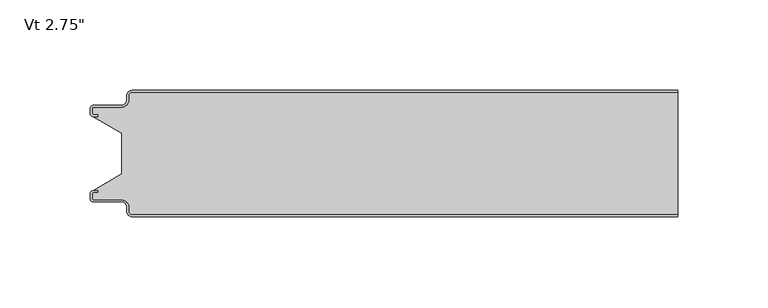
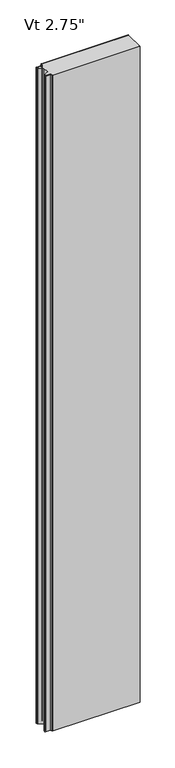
"""IFC4 building model written with IfcOpenShell, lengths in millimetres: plate geometry."""

from ifc_helpers import new_model, si_unit, frame, origin, place, context, project, spatial, polyline, circle_curve, source, transform, mapped, element, save
from ifc_brep_helpers import plane_surface, cylinder_surface, revolved_surface, advanced_brep


def plate_2b2a99c2(model_context):
    return source(origin(), model_context, "Body", "AdvancedBrep", [
        advanced_brep(
        [(-149.8873936, -2.9776189, 2400.0), (-147.9104835, -1.0007088, 2400.0), (153.7374998, -1.0007088, 2400.0), (153.7374998, 0.0, 2400.0), (-147.9102787, 0.0, 2400.0), (-150.8875472, -2.977286, 2400.0), (-150.8875472, -5.2691698, 2400.0), (-153.8648158, -8.2464384, 2400.0), (-169.4612418, -8.2464384, 2400.0), (-171.0491183, -9.8343149, 2400.0), (-171.0491183, -12.9058636, 2400.0), (-169.4612418, -14.4937401, 2400.0), (-167.1062063, -14.4937401, 2400.0), (-167.1062063, -13.4937365, 2400.0), (-169.4612373, -13.4937365, 2400.0), (-170.0491084, -12.9058654, 2400.0), (-170.0491084, -9.834334, 2400.0), (-169.4612512, -9.2464768, 2400.0), (-153.864739, -9.2464768, 2400.0), (-149.8873936, -5.2691315, 2400.0), (-149.8873936, -2.9776189, 0.0), (-149.8873936, -5.2691315, 0.0), (-153.864739, -9.2464768, 0.0), (-169.4612512, -9.2464768, 0.0), (-170.0491084, -9.834334, 0.0), (-170.0491084, -12.9058654, 0.0), (-169.4612373, -13.4937365, 0.0), (-167.1062063, -13.4937365, 0.0), (-167.1062063, -14.4937401, 0.0), (-169.4612418, -14.4937401, 0.0), (-171.0491183, -12.9058636, 0.0), (-171.0491183, -9.8343149, 0.0), (-169.4612418, -8.2464384, 0.0), (-153.8648158, -8.2464384, 0.0), (-150.8875472, -5.2691698, 0.0), (-150.8875472, -2.977286, 0.0), (-147.9102787, -1.75e-05, 0.0), (153.7374998, 0.0, 0.0), (153.7374998, -1.0007088, 0.0), (-147.9104835, -1.0007088, 0.0)],
        [
            (0, 1, circle_curve(frame((-147.9104835, -2.9776189, 2400.0), z_axis=(0.0, 0.0, -1.0), x_axis=(0.0, 1.0, 0.0)), 1.9769101)),
            (1, 2),
            (2, 3),
            (3, 4),
            (4, 5, circle_curve(frame((-147.9102787, -2.977286, 2400.0), z_axis=(0.0, 0.0, 1.0), x_axis=(0.0, 1.0, 0.0)), 2.9772685)),
            (5, 6),
            (6, 7, circle_curve(frame((-153.8648158, -5.2691698, 2400.0), z_axis=(0.0, 0.0, -1.0), x_axis=(0.0, 1.0, 0.0)), 2.9772685)),
            (7, 8),
            (8, 9, circle_curve(frame((-169.4612418, -9.8343149, 2400.0), z_axis=(0.0, 0.0, 1.0), x_axis=(0.0, 1.0, 0.0)), 1.5878765)),
            (9, 10),
            (10, 11, circle_curve(frame((-169.4612418, -12.9058636, 2400.0), z_axis=(0.0, 0.0, 1.0), x_axis=(0.0, 1.0, 0.0)), 1.5878765)),
            (11, 12),
            (12, 13),
            (13, 14),
            (14, 15, circle_curve(frame((-169.4612373, -12.9058654, 2400.0), z_axis=(0.0, 0.0, -1.0), x_axis=(0.0, 1.0, 0.0)), 0.5878711)),
            (15, 16),
            (16, 17, circle_curve(frame((-169.4612512, -9.834334, 2400.0), z_axis=(0.0, 0.0, -1.0), x_axis=(0.0, 1.0, 0.0)), 0.5878572)),
            (17, 18),
            (18, 19, circle_curve(frame((-153.864739, -5.2691315, 2400.0), z_axis=(0.0, 0.0, 1.0), x_axis=(0.0, 1.0, 0.0)), 3.9773454)),
            (19, 0),
            (20, 21),
            (21, 22, circle_curve(frame((-153.864739, -5.2691315, 0.0), z_axis=(0.0, 0.0, -1.0), x_axis=(0.0, 1.0, 0.0)), 3.9773454)),
            (22, 23),
            (23, 24, circle_curve(frame((-169.4612512, -9.834334, 0.0), z_axis=(0.0, 0.0, 1.0), x_axis=(0.0, 1.0, 0.0)), 0.5878572)),
            (24, 25),
            (25, 26, circle_curve(frame((-169.4612373, -12.9058654, 0.0), z_axis=(0.0, 0.0, 1.0), x_axis=(0.0, 1.0, 0.0)), 0.5878711)),
            (26, 27),
            (27, 28),
            (28, 29),
            (29, 30, circle_curve(frame((-169.4612418, -12.9058636, 0.0), z_axis=(0.0, 0.0, -1.0), x_axis=(0.0, 1.0, 0.0)), 1.5878765)),
            (30, 31),
            (31, 32, circle_curve(frame((-169.4612418, -9.8343149, 0.0), z_axis=(0.0, 0.0, -1.0), x_axis=(0.0, 1.0, 0.0)), 1.5878765)),
            (32, 33),
            (33, 34, circle_curve(frame((-153.8648158, -5.2691698, 0.0), z_axis=(0.0, 0.0, 1.0), x_axis=(0.0, 1.0, 0.0)), 2.9772685)),
            (34, 35),
            (35, 36, circle_curve(frame((-147.9102787, -2.977286, 0.0), z_axis=(0.0, 0.0, -1.0), x_axis=(0.0, 1.0, 0.0)), 2.9772685)),
            (36, 37),
            (37, 38),
            (38, 39),
            (39, 20, circle_curve(frame((-147.9104835, -2.9776189, 0.0), z_axis=(0.0, 0.0, 1.0), x_axis=(0.0, 1.0, 0.0)), 1.9769101)),
            (2, 38),
            (37, 3),
            (19, 21),
            (20, 0),
            (18, 22),
            (17, 23),
            (16, 24),
            (15, 25),
            (14, 26),
            (13, 27),
            (12, 28),
            (11, 29),
            (10, 30),
            (9, 31),
            (8, 32),
            (7, 33),
            (6, 34),
            (5, 35),
            (4, 36),
            (1, 39),
        ],
        [
            plane_surface(frame((422.5250002, 0.0, 2400.0), z_axis=(0.0, 0.0, 1.0), x_axis=(0.0, 1.0, 0.0))),
            plane_surface(frame((422.5250002, 0.0, 0.0), z_axis=(0.0, 0.0, -1.0), x_axis=(0.0, 1.0, 0.0))),
            plane_surface(frame((153.7374998, -79.9, 2400.0), z_axis=(1.0, 0.0, 0.0), x_axis=(0.0, 0.0, -1.0))),
            plane_surface(frame((-149.8873936, -2.9776189, 2400.0), z_axis=(1.0, 0.0, 0.0), x_axis=(0.0, 0.0, -1.0))),
            cylinder_surface(frame((-153.864739, -5.2691315, 2400.0), z_axis=(0.0, 0.0, 1.0), x_axis=(0.0, 1.0, 0.0)), 3.9773454),
            plane_surface(frame((-153.864739, -9.2464768, 2400.0), z_axis=(0.0, -1.0, 0.0), x_axis=(0.0, 0.0, -1.0))),
            revolved_surface(polyline([(-169.4612512, -9.2464768, 0.0), (-169.4612512, -9.2464768, 2400.0)]), (-169.4612512, -9.834334, 2400.0), (0.0, 0.0, -1.0)),
            plane_surface(frame((-170.0491084, -9.834334, 2400.0), z_axis=(1.0, 0.0, 0.0), x_axis=(0.0, 0.0, -1.0))),
            revolved_surface(polyline([(-169.4612373, -12.3179943, 0.0), (-169.4612373, -12.3179943, 2400.0)]), (-169.4612373, -12.9058654, 2400.0), (0.0, 0.0, -1.0)),
            plane_surface(frame((-169.4612373, -13.4937365, 2400.0), z_axis=(0.0, 1.0, 0.0), x_axis=(0.0, 0.0, -1.0))),
            plane_surface(frame((-167.1062063, -13.4937365, 2400.0), z_axis=(1.0, 0.0, 0.0), x_axis=(0.0, 0.0, -1.0))),
            plane_surface(frame((-167.1062063, -14.4937401, 2400.0), z_axis=(0.0, -1.0, 0.0), x_axis=(0.0, 0.0, -1.0))),
            cylinder_surface(frame((-169.4612418, -12.9058636, 2400.0), z_axis=(0.0, 0.0, 1.0), x_axis=(0.0, 1.0, 0.0)), 1.5878765),
            plane_surface(frame((-171.0491183, -12.9058636, 2400.0), z_axis=(-1.0, 0.0, 0.0), x_axis=(0.0, 0.0, -1.0))),
            cylinder_surface(frame((-169.4612418, -9.8343149, 2400.0), z_axis=(0.0, 0.0, 1.0), x_axis=(0.0, 1.0, 0.0)), 1.5878765),
            plane_surface(frame((-169.4612418, -8.2464384, 2400.0), z_axis=(0.0, 1.0, 0.0), x_axis=(0.0, 0.0, -1.0))),
            revolved_surface(polyline([(-153.8648158, -2.2919013, 0.0), (-153.8648158, -2.2919013, 2400.0)]), (-153.8648158, -5.2691698, 2400.0), (0.0, 0.0, -1.0)),
            plane_surface(frame((-150.8875472, -5.2691698, 2400.0), z_axis=(-1.0, 0.0, 0.0), x_axis=(0.0, 0.0, -1.0))),
            cylinder_surface(frame((-147.9102787, -2.977286, 2400.0), z_axis=(0.0, 0.0, 1.0), x_axis=(0.0, 1.0, 0.0)), 2.9772685),
            plane_surface(frame((-147.9102787, 0.0, 2400.0), z_axis=(0.0, 1.0, 0.0), x_axis=(0.0, 0.0, -1.0))),
            plane_surface(frame((997.0753372, -1.0007088, 2400.0), z_axis=(0.0, -1.0, 0.0), x_axis=(0.0, 0.0, -1.0))),
            revolved_surface(polyline([(-147.9104835, -1.0007088, 0.0), (-147.9104835, -1.0007088, 2400.0)]), (-147.9104835, -2.9776189, 2400.0), (0.0, 0.0, -1.0)),
        ],
        [
            (0, [[1, 2, 3, 4, 5, 6, 7, 8, 9, 10, 11, 12, 13, 14, 15, 16, 17, 18, 19, 20]]),
            (1, [[21, 22, 23, 24, 25, 26, 27, 28, 29, 30, 31, 32, 33, 34, 35, 36, 37, 38, 39, 40]]),
            (2, [[41, -38, 42, -3]]),
            (3, [[43, -21, 44, -20]]),
            (4, [[45, -22, -43, -19]]),
            (5, [[46, -23, -45, -18]]),
            (6, [[47, -24, -46, -17]]),
            (7, [[48, -25, -47, -16]]),
            (8, [[49, -26, -48, -15]]),
            (9, [[50, -27, -49, -14]]),
            (10, [[51, -28, -50, -13]]),
            (11, [[52, -29, -51, -12]]),
            (12, [[53, -30, -52, -11]]),
            (13, [[54, -31, -53, -10]]),
            (14, [[55, -32, -54, -9]]),
            (15, [[56, -33, -55, -8]]),
            (16, [[57, -34, -56, -7]]),
            (17, [[58, -35, -57, -6]]),
            (18, [[59, -36, -58, -5]]),
            (19, [[-4, -42, -37, -59]]),
            (20, [[-39, -41, -2, 60]]),
            (21, [[-44, -40, -60, -1]]),
        ],
    ),
        advanced_brep(
        [(-149.8873936, -66.9223811, 2400.0), (-149.8873936, -64.6308685, 2400.0), (-153.864739, -60.6535232, 2400.0), (-169.4612512, -60.6535232, 2400.0), (-170.0491084, -60.065666, 2400.0), (-170.0491084, -56.9941346, 2400.0), (-169.4612373, -56.4062635, 2400.0), (-167.1062063, -56.4062635, 2400.0), (-167.1062063, -55.4062599, 2400.0), (-169.4612418, -55.4062599, 2400.0), (-171.0491183, -56.9941364, 2400.0), (-171.0491183, -60.0656851, 2400.0), (-169.4612418, -61.6535616, 2400.0), (-153.8648158, -61.6535616, 2400.0), (-150.8875472, -64.6308302, 2400.0), (-150.8875472, -66.922714, 2400.0), (-147.9102787, -69.8999825, 2400.0), (153.7374998, -69.9, 2400.0), (153.7374998, -68.8992912, 2400.0), (-147.9104835, -68.8992912, 2400.0), (-149.8873936, -66.9223811, 0.0), (-147.9104835, -68.8992912, 0.0), (153.7374998, -68.8992912, 0.0), (153.7374998, -69.9, 0.0), (-147.9102787, -69.9, 0.0), (-150.8875472, -66.922714, 0.0), (-150.8875472, -64.6308302, 0.0), (-153.8648158, -61.6535616, 0.0), (-169.4612418, -61.6535616, 0.0), (-171.0491183, -60.0656851, 0.0), (-171.0491183, -56.9941364, 0.0), (-169.4612418, -55.4062599, 0.0), (-167.1062063, -55.4062599, 0.0), (-167.1062063, -56.4062635, 0.0), (-169.4612373, -56.4062635, 0.0), (-170.0491084, -56.9941346, 0.0), (-170.0491084, -60.065666, 0.0), (-169.4612512, -60.6535232, 0.0), (-153.864739, -60.6535232, 0.0), (-149.8873936, -64.6308685, 0.0)],
        [
            (0, 1),
            (1, 2, circle_curve(frame((-153.864739, -64.6308685, 2400.0), z_axis=(0.0, 0.0, 1.0), x_axis=(-1.0, 0.0, 0.0)), 3.9773454)),
            (2, 3),
            (3, 4, circle_curve(frame((-169.4612512, -60.065666, 2400.0), z_axis=(0.0, 0.0, -1.0), x_axis=(-1.0, 0.0, 0.0)), 0.5878572)),
            (4, 5),
            (5, 6, circle_curve(frame((-169.4612373, -56.9941346, 2400.0), z_axis=(0.0, 0.0, -1.0), x_axis=(-1.0, 0.0, 0.0)), 0.5878711)),
            (6, 7),
            (7, 8),
            (8, 9),
            (9, 10, circle_curve(frame((-169.4612418, -56.9941364, 2400.0), z_axis=(0.0, 0.0, 1.0), x_axis=(-1.0, 0.0, 0.0)), 1.5878765)),
            (10, 11),
            (11, 12, circle_curve(frame((-169.4612418, -60.0656851, 2400.0), z_axis=(0.0, 0.0, 1.0), x_axis=(-1.0, 0.0, 0.0)), 1.5878765)),
            (12, 13),
            (13, 14, circle_curve(frame((-153.8648158, -64.6308302, 2400.0), z_axis=(0.0, 0.0, -1.0), x_axis=(-1.0, 0.0, 0.0)), 2.9772685)),
            (14, 15),
            (15, 16, circle_curve(frame((-147.9102787, -66.922714, 2400.0), z_axis=(0.0, 0.0, 1.0), x_axis=(-1.0, 0.0, 0.0)), 2.9772685)),
            (16, 17),
            (17, 18),
            (18, 19),
            (19, 0, circle_curve(frame((-147.9104835, -66.9223811, 2400.0), z_axis=(0.0, 0.0, -1.0), x_axis=(-1.0, 0.0, 0.0)), 1.9769101)),
            (20, 21, circle_curve(frame((-147.9104835, -66.9223811, 0.0), z_axis=(0.0, 0.0, 1.0), x_axis=(-1.0, 0.0, 0.0)), 1.9769101)),
            (21, 22),
            (22, 23),
            (23, 24),
            (24, 25, circle_curve(frame((-147.9102787, -66.922714, 0.0), z_axis=(0.0, 0.0, -1.0), x_axis=(-1.0, 0.0, 0.0)), 2.9772685)),
            (25, 26),
            (26, 27, circle_curve(frame((-153.8648158, -64.6308302, 0.0), z_axis=(0.0, 0.0, 1.0), x_axis=(-1.0, 0.0, 0.0)), 2.9772685)),
            (27, 28),
            (28, 29, circle_curve(frame((-169.4612418, -60.0656851, 0.0), z_axis=(0.0, 0.0, -1.0), x_axis=(-1.0, 0.0, 0.0)), 1.5878765)),
            (29, 30),
            (30, 31, circle_curve(frame((-169.4612418, -56.9941364, 0.0), z_axis=(0.0, 0.0, -1.0), x_axis=(-1.0, 0.0, 0.0)), 1.5878765)),
            (31, 32),
            (32, 33),
            (33, 34),
            (34, 35, circle_curve(frame((-169.4612373, -56.9941346, 0.0), z_axis=(0.0, 0.0, 1.0), x_axis=(-1.0, 0.0, 0.0)), 0.5878711)),
            (35, 36),
            (36, 37, circle_curve(frame((-169.4612512, -60.065666, 0.0), z_axis=(0.0, 0.0, 1.0), x_axis=(-1.0, 0.0, 0.0)), 0.5878572)),
            (37, 38),
            (38, 39, circle_curve(frame((-153.864739, -64.6308685, 0.0), z_axis=(0.0, 0.0, -1.0), x_axis=(-1.0, 0.0, 0.0)), 3.9773454)),
            (39, 20),
            (17, 23),
            (22, 18),
            (16, 24),
            (21, 19),
            (20, 0),
            (39, 1),
            (38, 2),
            (37, 3),
            (4, 36),
            (35, 5),
            (34, 6),
            (33, 7),
            (32, 8),
            (31, 9),
            (30, 10),
            (29, 11),
            (28, 12),
            (27, 13),
            (26, 14),
            (25, 15),
        ],
        [
            plane_surface(frame((422.5250002, -69.9, 2400.0), z_axis=(0.0, 0.0, 1.0), x_axis=(0.0, -1.0, 0.0))),
            plane_surface(frame((422.5250002, -69.9, 0.0), z_axis=(0.0, 0.0, -1.0), x_axis=(0.0, -1.0, 0.0))),
            plane_surface(frame((153.7374998, -79.9, 2400.0), z_axis=(1.0, 0.0, 0.0), x_axis=(0.0, 0.0, -1.0))),
            plane_surface(frame((997.0725653, -69.9, 2400.0), z_axis=(0.0, -1.0, 0.0), x_axis=(0.0, 0.0, -1.0))),
            plane_surface(frame((-147.9104835, -68.8992912, 2400.0), z_axis=(0.0, 1.0, 0.0), x_axis=(0.0, 0.0, -1.0))),
            revolved_surface(polyline([(-149.8873936, -66.9223811, 0.0), (-149.8873936, -66.9223811, 2400.0)]), (-147.9104835, -66.9223811, 2400.0), (0.0, 0.0, -1.0)),
            plane_surface(frame((-149.8873936, -64.6308685, 2400.0), z_axis=(1.0, 0.0, 0.0), x_axis=(0.0, 0.0, -1.0))),
            cylinder_surface(frame((-153.864739, -64.6308685, 2400.0), z_axis=(0.0, 0.0, 1.0), x_axis=(-1.0, 0.0, 0.0)), 3.9773454),
            plane_surface(frame((-169.4612512, -60.6535232, 2400.0), z_axis=(0.0, 1.0, 0.0), x_axis=(0.0, 0.0, -1.0))),
            plane_surface(frame((-170.0491084, -56.9941346, 2400.0), z_axis=(1.0, 0.0, 0.0), x_axis=(0.0, 0.0, -1.0))),
            revolved_surface(polyline([(-170.0491084, -56.9941346, 0.0), (-170.0491084, -56.9941346, 2400.0)]), (-169.4612373, -56.9941346, 2400.0), (0.0, 0.0, -1.0)),
            plane_surface(frame((-167.1062063, -56.4062635, 2400.0), z_axis=(0.0, -1.0, 0.0), x_axis=(0.0, 0.0, -1.0))),
            plane_surface(frame((-167.1062063, -55.4062599, 2400.0), z_axis=(1.0, 0.0, 0.0), x_axis=(0.0, 0.0, -1.0))),
            plane_surface(frame((-169.4612418, -55.4062599, 2400.0), z_axis=(0.0, 1.0, 0.0), x_axis=(0.0, 0.0, -1.0))),
            cylinder_surface(frame((-169.4612418, -56.9941364, 2400.0), z_axis=(0.0, 0.0, 1.0), x_axis=(-1.0, 0.0, 0.0)), 1.5878765),
            plane_surface(frame((-171.0491183, -60.0656851, 2400.0), z_axis=(-1.0, 0.0, 0.0), x_axis=(0.0, 0.0, -1.0))),
            cylinder_surface(frame((-169.4612418, -60.0656851, 2400.0), z_axis=(0.0, 0.0, 1.0), x_axis=(-1.0, 0.0, 0.0)), 1.5878765),
            plane_surface(frame((-153.8648158, -61.6535616, 2400.0), z_axis=(0.0, -1.0, 0.0), x_axis=(0.0, 0.0, -1.0))),
            revolved_surface(polyline([(-156.8420843, -64.6308302, 0.0), (-156.8420843, -64.6308302, 2400.0)]), (-153.8648158, -64.6308302, 2400.0), (0.0, 0.0, -1.0)),
            plane_surface(frame((-150.8875472, -66.922714, 2400.0), z_axis=(-1.0, 0.0, 0.0), x_axis=(0.0, 0.0, -1.0))),
            cylinder_surface(frame((-147.9102787, -66.922714, 2400.0), z_axis=(0.0, 0.0, 1.0), x_axis=(-1.0, 0.0, 0.0)), 2.9772685),
            revolved_surface(polyline([(-170.0491084, -60.065666, 0.0), (-170.0491084, -60.065666, 2400.0)]), (-169.4612512, -60.065666, 2400.0), (0.0, 0.0, -1.0)),
        ],
        [
            (0, [[1, 2, 3, 4, 5, 6, 7, 8, 9, 10, 11, 12, 13, 14, 15, 16, 17, 18, 19, 20]]),
            (1, [[21, 22, 23, 24, 25, 26, 27, 28, 29, 30, 31, 32, 33, 34, 35, 36, 37, 38, 39, 40]]),
            (2, [[41, -23, 42, -18]]),
            (3, [[-24, -41, -17, 43]]),
            (4, [[-19, -42, -22, 44]]),
            (5, [[-44, -21, 45, -20]]),
            (6, [[-45, -40, 46, -1]]),
            (7, [[-46, -39, 47, -2]]),
            (8, [[-47, -38, 48, -3]]),
            (9, [[49, -36, 50, -5]]),
            (10, [[-50, -35, 51, -6]]),
            (11, [[-51, -34, 52, -7]]),
            (12, [[-52, -33, 53, -8]]),
            (13, [[-53, -32, 54, -9]]),
            (14, [[-54, -31, 55, -10]]),
            (15, [[-55, -30, 56, -11]]),
            (16, [[-56, -29, 57, -12]]),
            (17, [[-57, -28, 58, -13]]),
            (18, [[-58, -27, 59, -14]]),
            (19, [[-59, -26, 60, -15]]),
            (20, [[-60, -25, -43, -16]]),
            (21, [[-48, -37, -49, -4]]),
        ],
    ),
        advanced_brep(
        [(-149.88755, -66.9227194, 2400.0), (-147.910276, -68.8999935, 2400.0), (153.7374998, -68.9, 2400.0), (153.7374998, -1.0, 2400.0), (-147.910276, -1.0, 2400.0), (-149.88755, -2.9772806, 2400.0), (-149.88755, -5.2691705, 2400.0), (-153.8648171, -9.2464377, 2400.0), (-169.4612416, -9.2464377, 2400.0), (-170.0491185, -9.8343146, 2400.0), (-170.0491185, -12.9058635, 2400.0), (-169.4612418, -13.4937402, 2400.0), (-167.1062063, -13.4937402, 2400.0), (-167.1062063, -14.4937402, 2400.0), (-169.395785, -14.4937402, 2400.0), (-153.7374998, -23.7509135, 2400.0), (-153.7374998, -46.1490865, 2400.0), (-169.395785, -55.4062598, 2400.0), (-167.1062063, -55.4062598, 2400.0), (-167.1062063, -56.4062598, 2400.0), (-169.4612418, -56.4062598, 2400.0), (-170.0491185, -56.9941365, 2400.0), (-170.0491185, -60.0656854, 2400.0), (-169.4612416, -60.6535623, 2400.0), (-153.8648171, -60.6535623, 2400.0), (-149.88755, -64.6308295, 2400.0), (-149.88755, -66.9227194, 0.0), (-149.88755, -64.6308295, 0.0), (-153.8648171, -60.6535623, 0.0), (-169.4612416, -60.6535623, 0.0), (-170.0491185, -60.0656854, 0.0), (-170.0491185, -56.9941365, 0.0), (-169.4612418, -56.4062598, 0.0), (-167.1062063, -56.4062598, 0.0), (-167.1062063, -55.4062598, 0.0), (-169.395785, -55.4062598, 0.0), (-153.7374998, -46.1490865, 0.0), (-153.7374998, -23.7509179, 0.0), (-169.395785, -14.4937402, 0.0), (-167.1062063, -14.4937402, 0.0), (-167.1062063, -13.4937402, 0.0), (-169.4612418, -13.4937402, 0.0), (-170.0491185, -12.9058635, 0.0), (-170.0491185, -9.8343146, 0.0), (-169.4612416, -9.2464377, 0.0), (-153.8648171, -9.2464377, 0.0), (-149.88755, -5.2691705, 0.0), (-149.88755, -2.9772806, 0.0), (-147.910276, -1.0000065, 0.0), (153.7374998, -1.0, 0.0), (153.7374998, -68.9, 0.0), (-147.910276, -68.9, 0.0)],
        [
            (0, 1, circle_curve(frame((-147.910276, -66.9227194, 2400.0), z_axis=(0.0, 0.0, 1.0), x_axis=(-1.0, 0.0, 0.0)), 1.977274)),
            (1, 2),
            (2, 3),
            (3, 4),
            (4, 5, circle_curve(frame((-147.910276, -2.9772806, 2400.0), z_axis=(0.0, 0.0, 1.0), x_axis=(0.0, 1.0, 0.0)), 1.977274)),
            (5, 6),
            (6, 7, circle_curve(frame((-153.8648171, -5.2691705, 2400.0), z_axis=(0.0, 0.0, -1.0), x_axis=(0.0, 1.0, 0.0)), 3.9772671)),
            (7, 8),
            (8, 9, circle_curve(frame((-169.4612416, -9.8343146, 2400.0), z_axis=(0.0, 0.0, 1.0), x_axis=(0.0, 1.0, 0.0)), 0.5878769)),
            (9, 10),
            (10, 11, circle_curve(frame((-169.4612418, -12.9058635, 2400.0), z_axis=(0.0, 0.0, 1.0), x_axis=(0.0, 1.0, 0.0)), 0.5878766)),
            (11, 12),
            (12, 13),
            (13, 14),
            (14, 15),
            (15, 16),
            (16, 17),
            (17, 18),
            (18, 19),
            (19, 20),
            (20, 21, circle_curve(frame((-169.4612418, -56.9941365, 2400.0), z_axis=(0.0, 0.0, 1.0), x_axis=(-1.0, 0.0, 0.0)), 0.5878766)),
            (21, 22),
            (22, 23, circle_curve(frame((-169.4612416, -60.0656854, 2400.0), z_axis=(0.0, 0.0, 1.0), x_axis=(-1.0, 0.0, 0.0)), 0.5878769)),
            (23, 24),
            (24, 25, circle_curve(frame((-153.8648171, -64.6308295, 2400.0), z_axis=(0.0, 0.0, -1.0), x_axis=(-1.0, 0.0, 0.0)), 3.9772671)),
            (25, 0),
            (26, 27),
            (27, 28, circle_curve(frame((-153.8648171, -64.6308295, 0.0), z_axis=(0.0, 0.0, 1.0), x_axis=(-1.0, 0.0, 0.0)), 3.9772671)),
            (28, 29),
            (29, 30, circle_curve(frame((-169.4612416, -60.0656854, 0.0), z_axis=(0.0, 0.0, -1.0), x_axis=(-1.0, 0.0, 0.0)), 0.5878769)),
            (30, 31),
            (31, 32, circle_curve(frame((-169.4612418, -56.9941365, 0.0), z_axis=(0.0, 0.0, -1.0), x_axis=(-1.0, 0.0, 0.0)), 0.5878766)),
            (32, 33),
            (33, 34),
            (34, 35),
            (35, 36),
            (36, 37),
            (37, 38),
            (38, 39),
            (39, 40),
            (40, 41),
            (41, 42, circle_curve(frame((-169.4612418, -12.9058635, 0.0), z_axis=(0.0, 0.0, -1.0), x_axis=(0.0, 1.0, 0.0)), 0.5878766)),
            (42, 43),
            (43, 44, circle_curve(frame((-169.4612416, -9.8343146, 0.0), z_axis=(0.0, 0.0, -1.0), x_axis=(0.0, 1.0, 0.0)), 0.5878769)),
            (44, 45),
            (45, 46, circle_curve(frame((-153.8648171, -5.2691705, 0.0), z_axis=(0.0, 0.0, 1.0), x_axis=(0.0, 1.0, 0.0)), 3.9772671)),
            (46, 47),
            (47, 48, circle_curve(frame((-147.910276, -2.9772806, 0.0), z_axis=(0.0, 0.0, -1.0), x_axis=(0.0, 1.0, 0.0)), 1.977274)),
            (48, 49),
            (49, 50),
            (50, 51),
            (51, 26, circle_curve(frame((-147.910276, -66.9227194, 0.0), z_axis=(0.0, 0.0, -1.0), x_axis=(-1.0, 0.0, 0.0)), 1.977274)),
            (15, 37),
            (36, 16),
            (2, 50),
            (49, 3),
            (25, 27),
            (26, 0),
            (24, 28),
            (23, 29),
            (22, 30),
            (21, 31),
            (20, 32),
            (19, 33),
            (18, 34),
            (17, 35),
            (1, 51),
            (4, 48),
            (47, 5),
            (14, 38),
            (13, 39),
            (12, 40),
            (11, 41),
            (10, 42),
            (9, 43),
            (8, 44),
            (7, 45),
            (6, 46),
        ],
        [
            plane_surface(frame((422.5250002, -68.9, 2400.0), z_axis=(0.0, 0.0, 1.0), x_axis=(0.0, -1.0, 0.0))),
            plane_surface(frame((422.5250002, -68.9, 0.0), z_axis=(0.0, 0.0, -1.0), x_axis=(0.0, -1.0, 0.0))),
            plane_surface(frame((-153.7374998, -46.1490865, 2400.0), z_axis=(-1.0, 0.0, 0.0), x_axis=(0.0, 0.0, -1.0))),
            plane_surface(frame((153.7374998, -79.9, 2400.0), z_axis=(1.0, 0.0, 0.0), x_axis=(0.0, 0.0, -1.0))),
            plane_surface(frame((-149.88755, -66.9227194, 2400.0), z_axis=(-1.0, 0.0, 0.0), x_axis=(0.0, 0.0, -1.0))),
            revolved_surface(polyline([(-157.84208420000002, -64.6308295, 0.0), (-157.84208420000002, -64.6308295, 2400.0)]), (-153.8648171, -64.6308295, 2400.0), (0.0, 0.0, -1.0)),
            plane_surface(frame((-153.8648171, -60.6535623, 2400.0), z_axis=(0.0, -1.0, 0.0), x_axis=(0.0, 0.0, -1.0))),
            cylinder_surface(frame((-169.4612416, -60.0656854, 2400.0), z_axis=(0.0, 0.0, 1.0), x_axis=(-1.0, 0.0, 0.0)), 0.5878769),
            plane_surface(frame((-170.0491185, -60.0656854, 2400.0), z_axis=(-1.0, 0.0, 0.0), x_axis=(0.0, 0.0, -1.0))),
            cylinder_surface(frame((-169.4612418, -56.9941365, 2400.0), z_axis=(0.0, 0.0, 1.0), x_axis=(-1.0, 0.0, 0.0)), 0.5878766),
            plane_surface(frame((-169.4612418, -56.4062598, 2400.0), z_axis=(0.0, 1.0, 0.0), x_axis=(0.0, 0.0, -1.0))),
            plane_surface(frame((-167.1062063, -56.4062598, 2400.0), z_axis=(-1.0, 0.0, 0.0), x_axis=(0.0, 0.0, -1.0))),
            plane_surface(frame((-167.1062063, -55.4062598, 2400.0), z_axis=(0.0, -1.0, 0.0), x_axis=(0.0, 0.0, -1.0))),
            plane_surface(frame((-169.395785, -55.4062598, 2400.0), z_axis=(-0.5089147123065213, 0.860816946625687, 0.0), x_axis=(0.0, 0.0, -1.0))),
            plane_surface(frame((997.0725653, -68.9, 2400.0), z_axis=(0.0, -1.0, 0.0), x_axis=(0.0, 0.0, -1.0))),
            cylinder_surface(frame((-147.910276, -66.9227194, 2400.0), z_axis=(0.0, 0.0, 1.0), x_axis=(-1.0, 0.0, 0.0)), 1.977274),
            cylinder_surface(frame((-147.910276, -2.9772806, 2400.0), z_axis=(0.0, 0.0, 1.0), x_axis=(0.0, 1.0, 0.0)), 1.977274),
            plane_surface(frame((-147.910276, -1.0, 2400.0), z_axis=(0.0, 1.0, 0.0), x_axis=(0.0, 0.0, -1.0))),
            plane_surface(frame((-153.7374998, -23.7509135, 2400.0), z_axis=(-0.5089147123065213, -0.860816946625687, 0.0), x_axis=(0.0, 0.0, -1.0))),
            plane_surface(frame((-169.395785, -14.4937402, 2400.0), z_axis=(0.0, 1.0, 0.0), x_axis=(0.0, 0.0, -1.0))),
            plane_surface(frame((-167.1062063, -14.4937402, 2400.0), z_axis=(-1.0, 0.0, 0.0), x_axis=(0.0, 0.0, -1.0))),
            plane_surface(frame((-167.1062063, -13.4937402, 2400.0), z_axis=(0.0, -1.0, 0.0), x_axis=(0.0, 0.0, -1.0))),
            cylinder_surface(frame((-169.4612418, -12.9058635, 2400.0), z_axis=(0.0, 0.0, 1.0), x_axis=(0.0, 1.0, 0.0)), 0.5878766),
            plane_surface(frame((-170.0491185, -12.9058635, 2400.0), z_axis=(-1.0, 0.0, 0.0), x_axis=(0.0, 0.0, -1.0))),
            cylinder_surface(frame((-169.4612416, -9.8343146, 2400.0), z_axis=(0.0, 0.0, 1.0), x_axis=(0.0, 1.0, 0.0)), 0.5878769),
            plane_surface(frame((-169.4612416, -9.2464377, 2400.0), z_axis=(0.0, 1.0, 0.0), x_axis=(0.0, 0.0, -1.0))),
            revolved_surface(polyline([(-153.8648171, -1.2919034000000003, 0.0), (-153.8648171, -1.2919034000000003, 2400.0)]), (-153.8648171, -5.2691705, 2400.0), (0.0, 0.0, -1.0)),
            plane_surface(frame((-149.88755, -5.2691705, 2400.0), z_axis=(-1.0, 0.0, 0.0), x_axis=(0.0, 0.0, -1.0))),
        ],
        [
            (0, [[1, 2, 3, 4, 5, 6, 7, 8, 9, 10, 11, 12, 13, 14, 15, 16, 17, 18, 19, 20, 21, 22, 23, 24, 25, 26]]),
            (1, [[27, 28, 29, 30, 31, 32, 33, 34, 35, 36, 37, 38, 39, 40, 41, 42, 43, 44, 45, 46, 47, 48, 49, 50, 51, 52]]),
            (2, [[53, -37, 54, -16]]),
            (3, [[55, -50, 56, -3]]),
            (4, [[57, -27, 58, -26]]),
            (5, [[59, -28, -57, -25]]),
            (6, [[60, -29, -59, -24]]),
            (7, [[61, -30, -60, -23]]),
            (8, [[62, -31, -61, -22]]),
            (9, [[63, -32, -62, -21]]),
            (10, [[64, -33, -63, -20]]),
            (11, [[65, -34, -64, -19]]),
            (12, [[66, -35, -65, -18]]),
            (13, [[-54, -36, -66, -17]]),
            (14, [[-51, -55, -2, 67]]),
            (15, [[-58, -52, -67, -1]]),
            (16, [[68, -48, 69, -5]]),
            (17, [[-4, -56, -49, -68]]),
            (18, [[70, -38, -53, -15]]),
            (19, [[71, -39, -70, -14]]),
            (20, [[72, -40, -71, -13]]),
            (21, [[73, -41, -72, -12]]),
            (22, [[74, -42, -73, -11]]),
            (23, [[75, -43, -74, -10]]),
            (24, [[76, -44, -75, -9]]),
            (25, [[77, -45, -76, -8]]),
            (26, [[78, -46, -77, -7]]),
            (27, [[-69, -47, -78, -6]]),
        ],
    ),
    ])


if __name__ == "__main__":
    model = new_model("IFC4")
    model_context = context("Model", 3, world=origin())
    ifc_project = project(units=[si_unit("LENGTHUNIT", "METRE", prefix="MILLI")], contexts=[model_context])
    site = spatial("IfcSite", under=ifc_project)
    building = spatial("IfcBuilding", under=site)
    placement = place(None, origin())
    plate_shape = plate_2b2a99c2(model_context)
    element("IfcPlate", 1, ObjectType="KIP-SLI-FLI-R19-CP-Vt-FL_FL : Vt 2.75\"", at=placement, inside=building, context=model_context, shape_type="MappedRepresentation", body=[
        mapped(plate_shape, transform((0.0, 0.0, 0.0), x_axis=(1.0, 0.0, 0.0), y_axis=(0.0, 1.0, 0.0), z_axis=(0.0, 0.0, 1.0))),
    ])
    save(model, "model.ifc")
